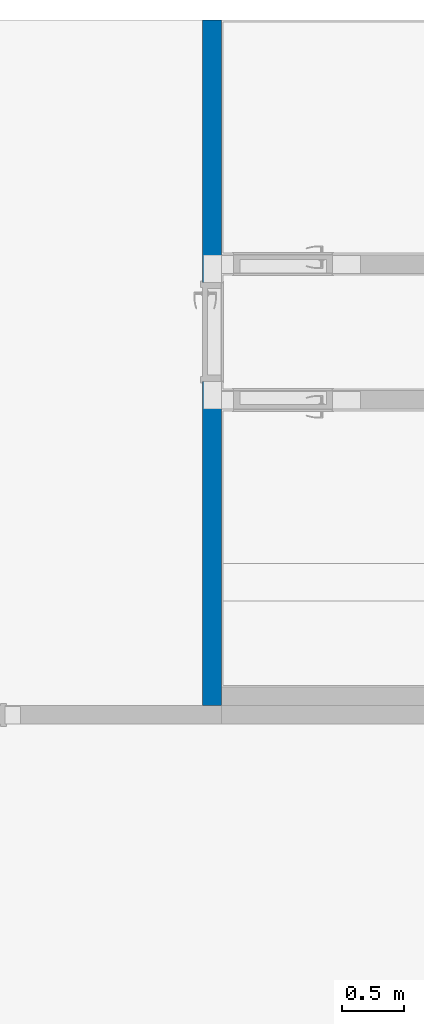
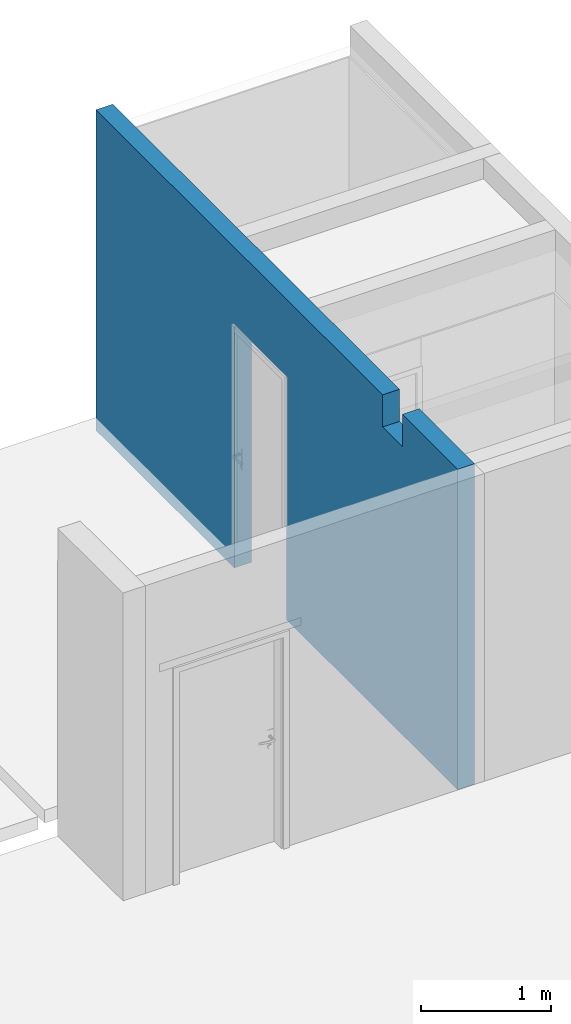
# One storey, part 14 of 17: 1 wall, 1 opening.
"""IFC4 building model written with IfcOpenShell, lengths in millimetres."""

from ifc_helpers import new_model, entity, si_unit, converted_unit, derived_unit, direction, frame, origin_with_axes, place, context, subcontext, project, spatial, polygons, material, constituent, constituent_set, type_object, element, save


model = new_model("IFC4")

# Units and contexts
model_context = context("Model", 3, precision=0.01, world=origin_with_axes(), true_north=direction((0.0, 1.0)))
body_context = subcontext(model_context, "Body", "Model", "MODEL_VIEW")
ifc_project = project(units=[si_unit("LENGTHUNIT", "METRE", prefix="MILLI"), si_unit("AREAUNIT", "SQUARE_METRE"), si_unit("VOLUMEUNIT", "CUBIC_METRE"), converted_unit("PLANEANGLEUNIT", "DEGREE", entity("IfcPlaneAngleMeasure", 0.0174532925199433), si_unit("PLANEANGLEUNIT", "RADIAN"), dimensions=[0, 0, 0, 0, 0, 0, 0]), converted_unit("TIMEUNIT", "Year", entity("IfcTimeMeasure", 31557600.0), si_unit("TIMEUNIT", "SECOND"), dimensions=[0, 0, 1, 0, 0, 0, 0]), si_unit("MASSUNIT", "GRAM", prefix="KILO"), si_unit("THERMODYNAMICTEMPERATUREUNIT", "DEGREE_CELSIUS"), si_unit("LUMINOUSINTENSITYUNIT", "LUMEN"), si_unit("ENERGYUNIT", "JOULE", prefix="MEGA"), derived_unit("THERMALCONDUCTANCEUNIT", [(si_unit("POWERUNIT", "WATT"), 1), (si_unit("LENGTHUNIT", "METRE"), -1), (si_unit("THERMODYNAMICTEMPERATUREUNIT", "KELVIN"), -1)]), derived_unit("SPECIFICHEATCAPACITYUNIT", [(si_unit("ENERGYUNIT", "JOULE"), 1), (si_unit("MASSUNIT", "GRAM", prefix="KILO"), -1), (si_unit("THERMODYNAMICTEMPERATUREUNIT", "KELVIN"), -1)]), derived_unit("MASSDENSITYUNIT", [(si_unit("MASSUNIT", "GRAM", prefix="KILO"), 1), (si_unit("VOLUMEUNIT", "CUBIC_METRE"), -1)])], contexts=[model_context])

# Site, building, storey
site_placement = place(None, origin_with_axes())
site = spatial("IfcSite", under=ifc_project, at=site_placement, Name="Exteriér", CompositionType="ELEMENT")
building_placement = place(site_placement, origin_with_axes())
building = spatial("IfcBuilding", under=site, at=building_placement, Name="Univerzitní lezecké centrum", CompositionType="ELEMENT")
storey_placement = place(building_placement, frame((0.0, 0.0, 3200.0), z_axis=(0.0, 0.0, 1.0), x_axis=(1.0, 0.0, 0.0)))
storey = spatial("IfcBuildingStorey", under=building, at=storey_placement, Name="2.NP", CompositionType="ELEMENT", Elevation=3200.0)

# Wall, opening
ifc_material = material(Name="Keramické tvárnice nenosné tl. 150 mm")
ifc_constituent = constituent(ifc_material, Name="Keramické tvárnice nenosné tl. 150 mm")
ifc_constituent_set = constituent_set(constituents=[ifc_constituent], Name="!Vnitřní keramická stěna 150 mm - nenosná*")
wall_type = type_object("IfcWallType", Name="!Vnitřní keramická stěna 150 mm - nenosná* 150", PredefinedType="NOTDEFINED")
wall_placement = place(storey_placement, frame((7750.055064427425, -1149.612793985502, -120.000000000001), z_axis=(0.0, 0.0, 1.0), x_axis=(0.0, 1.0, 0.0)))
wall = element("IfcWall", 1, at=wall_placement, inside=storey, type_object=wall_type, material=ifc_constituent_set, Name="St07*", PredefinedType="NOTDEFINED", context=body_context, shape_type="Tessellation", body=[
    polygons([(3424.612793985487, -150.0000000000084, 0.500000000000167), (3424.612793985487, -150.0000000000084, 0.0), (5549.612793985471, -150.0000000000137, 0.0), (5549.612793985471, -150.0000000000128, 3000.0), (1149.449368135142, -150.0000000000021, 3000.0), (1149.449368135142, -150.000000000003, 2700.0), (849.4493681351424, -150.0000000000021, 2700.0), (849.4493681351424, -150.0000000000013, 3000.0), (0.0, -149.9999999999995, 3000.0), (0.0, -150.0000000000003, 0.0), (2624.612793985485, -150.0000000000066, 0.0), (2624.612793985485, -150.0000000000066, 0.500000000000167), (2624.612793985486, -150.0000000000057, 120.000000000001), (2624.612793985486, -149.9999999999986, 2250.0), (2399.612793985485, -149.9999999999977, 2250.0), (2399.612793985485, -149.9999999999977, 2321.0), (3649.612793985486, -150.0000000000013, 2321.0), (3649.612793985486, -150.0000000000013, 2250.0), (3424.612793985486, -150.0000000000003, 2250.0), (3424.612793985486, -150.0000000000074, 120.000000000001), (3424.612793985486, 0.0, 0.500000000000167), (3424.612793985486, 0.0, 0.0), (5549.612793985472, 0.0, 0.0), (5549.612793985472, 0.0, 3000.0), (1149.4493687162, 0.0, 3000.0), (1149.4493687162, 0.0, 2700.0), (849.4493687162, 0.0, 2700.0), (849.4493687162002, 0.0, 3000.0), (0.0, 0.0, 3000.0), (0.0, 0.0, 0.0), (2624.612793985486, 0.0, 0.0), (2624.612793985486, 0.0, 0.500000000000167), (2624.612793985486, 0.0, 120.000000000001), (2624.612793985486, 0.0, 2270.000000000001), (2624.612793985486, -5.725001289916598, 2270.000000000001), (2624.612793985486, -5.725001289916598, 2250.0), (2399.612793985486, -5.72500128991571, 2250.0), (2399.612793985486, -5.72500128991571, 2321.0), (2399.612793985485, -116.6674999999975, 2280.499637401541), (2399.612793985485, -116.6674999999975, 2260.49963740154), (2399.612793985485, -138.5574999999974, 2260.49963740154), (2399.612793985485, -138.5574999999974, 2280.499637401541), (2399.612793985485, -116.6674999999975, 2310.5), (2399.612793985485, -116.6674999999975, 2290.5), (2399.612793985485, -138.5574999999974, 2290.5), (2399.612793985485, -138.5574999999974, 2310.5), (2399.612793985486, -39.05863622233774, 2280.499637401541), (2399.612793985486, -17.16863622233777, 2280.499637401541), (2399.612793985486, -17.16863622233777, 2260.49963740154), (2399.612793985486, -39.05863622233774, 2260.49963740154), (2399.612793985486, -17.16863622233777, 2290.5), (2399.612793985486, -39.05863622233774, 2290.5), (2399.612793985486, -39.05863622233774, 2310.5), (2399.612793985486, -17.16863622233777, 2310.5), (3649.612793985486, -5.725001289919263, 2321.0), (3649.612793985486, -5.725001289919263, 2250.0), (3649.612793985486, -116.667500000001, 2280.499637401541), (3649.612793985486, -138.557500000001, 2280.499637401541), (3649.612793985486, -138.557500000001, 2260.49963740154), (3649.612793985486, -116.667500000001, 2260.49963740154), (3649.612793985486, -116.667500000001, 2310.5), (3649.612793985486, -138.557500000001, 2310.5), (3649.612793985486, -138.557500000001, 2290.5), (3649.612793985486, -116.667500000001, 2290.5), (3649.612793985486, -39.05863622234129, 2280.499637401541), (3649.612793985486, -39.05863622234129, 2260.49963740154), (3649.612793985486, -17.16863622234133, 2260.49963740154), (3649.612793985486, -17.16863622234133, 2280.499637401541), (3649.612793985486, -17.16863622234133, 2290.5), (3649.612793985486, -17.16863622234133, 2310.5), (3649.612793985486, -39.05863622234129, 2310.5), (3649.612793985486, -39.05863622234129, 2290.5), (3424.612793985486, -5.725001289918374, 2250.0), (3424.612793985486, -5.725001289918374, 2270.000000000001), (3424.612793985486, 0.0, 2270.000000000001), (3424.612793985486, 0.0, 120.000000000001), (3424.612793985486, -116.6675000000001, 2260.49963740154), (3424.612793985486, -116.6675000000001, 2270.000000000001), (2624.612793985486, -116.6674999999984, 2270.000000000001), (2624.612793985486, -116.6674999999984, 2260.49963740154), (2624.612793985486, -138.5574999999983, 2260.49963740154), (2624.612793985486, -138.5574999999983, 2270.000000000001), (3424.612793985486, -138.5575000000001, 2270.000000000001), (3424.612793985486, -138.5575000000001, 2260.49963740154), (3424.612793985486, -17.16863622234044, 2260.49963740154), (3424.612793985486, -17.16863622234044, 2270.000000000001), (2624.612793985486, -17.16863622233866, 2270.000000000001), (2624.612793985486, -17.16863622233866, 2260.49963740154), (2624.612793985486, -39.05863622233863, 2260.49963740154), (2624.612793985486, -39.05863622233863, 2270.000000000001), (3424.612793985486, -39.0586362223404, 2270.000000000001), (3424.612793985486, -39.0586362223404, 2260.49963740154)], [[[1, 2, 3, 4, 5, 6, 7, 8, 9, 10, 11, 12, 13, 14, 15, 16, 17, 18, 19, 20]], [[2, 1, 21, 22]], [[2, 22, 23, 3]], [[23, 24, 4, 3]], [[4, 24, 25, 5]], [[25, 26, 6, 5]], [[26, 27, 7, 6]], [[7, 27, 28, 8]], [[29, 9, 8, 28]], [[30, 10, 9, 29]], [[31, 11, 10, 30]], [[32, 12, 11, 31]], [[12, 32, 33, 13]], [[34, 35, 36, 14, 13, 33]], [[36, 37, 15, 14]], [[37, 38, 16, 15], [39, 40, 41, 42], [43, 44, 45, 46], [47, 48, 49, 50], [51, 52, 53, 54]], [[55, 17, 16, 38]], [[18, 17, 55, 56], [57, 58, 59, 60], [61, 62, 63, 64], [65, 66, 67, 68], [69, 70, 71, 72]], [[56, 73, 19, 18]], [[20, 19, 73, 74, 75, 76]], [[21, 1, 20, 76]], [[22, 21, 76, 75, 34, 33, 32, 31, 30, 29, 28, 27, 26, 25, 24, 23]], [[34, 75, 74, 35]], [[37, 36, 35, 74, 73, 56, 55, 38]], [[57, 60, 77, 78, 79, 80, 40, 39]], [[41, 40, 80, 81]], [[41, 81, 82, 83, 84, 59, 58, 42]], [[57, 39, 42, 58]], [[64, 44, 43, 61]], [[63, 45, 44, 64]], [[62, 46, 45, 63]], [[61, 43, 46, 62]], [[68, 48, 47, 65]], [[68, 67, 85, 86, 87, 88, 49, 48]], [[50, 49, 88, 89]], [[50, 89, 90, 91, 92, 66, 65, 47]], [[72, 52, 51, 69]], [[71, 53, 52, 72]], [[70, 54, 53, 71]], [[69, 51, 54, 70]], [[60, 59, 84, 77]], [[67, 66, 92, 85]], [[83, 78, 77, 84]], [[83, 82, 79, 78]], [[82, 81, 80, 79]], [[91, 86, 85, 92]], [[91, 90, 87, 86]], [[90, 89, 88, 87]]], closed=True),
])
opening_placement = place(wall_placement, frame((3024.612793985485, 0.0, 120.000000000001), z_axis=(0.0, 0.0, 1.0), x_axis=(1.0, 0.0, 0.0)))
element("IfcOpeningElement", 2, at=opening_placement, cuts=wall, Name="D14", context=body_context, identifier="Reference", shape_type="Tessellation", body=[
    polygons([(400.0000000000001, -151.0000000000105, 0.0), (400.0000000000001, -151.0000000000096, 2150.0), (-399.9999999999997, -151.0000000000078, 2150.0), (-399.9999999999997, -151.0000000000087, 0.0), (412.0000000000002, -151.0000000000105, 0.0), (412.0000000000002, -151.0000000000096, 2162.0), (-411.9999999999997, -151.0000000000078, 2162.0), (-411.9999999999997, -151.0000000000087, 0.0), (400.0000000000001, -150.0000000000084, 0.0), (-399.9999999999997, -150.0000000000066, 0.0), (-399.9999999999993, 0.0, 0.0), (-399.9999999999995, 1.000000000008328, 0.0), (400.0000000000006, 1.000000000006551, 0.0), (400.0000000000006, 0.0, 0.0), (412.0000000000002, -150.0000000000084, 0.0), (412.0000000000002, -150.0000000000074, 2162.0), (-411.9999999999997, -150.0000000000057, 2162.0), (-411.9999999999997, -150.0000000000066, 0.0), (-399.9999999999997, -150.0000000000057, 2150.0), (-399.9999999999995, 0.0, 2150.0), (-411.9999999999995, 0.0, 0.0), (-411.9999999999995, 1.000000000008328, 0.0), (-411.9999999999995, 1.000000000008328, 2162.0), (412.0000000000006, 1.000000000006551, 2162.0), (412.0000000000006, 1.000000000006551, 0.0), (412.0000000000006, 0.0, 0.0), (400.0000000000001, -150.0000000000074, 2150.0), (400.0000000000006, 0.0, 2150.0), (412.0000000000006, 0.0, 2162.0), (-411.9999999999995, 0.0, 2162.0)], [[[1, 2, 3, 4]], [[3, 2, 1, 5, 6, 7, 8, 4]], [[9, 1, 4, 10, 11, 12, 13, 14]], [[1, 9, 15, 5]], [[15, 16, 6, 5]], [[16, 17, 7, 6]], [[17, 18, 8, 7]], [[10, 4, 8, 18]], [[10, 19, 20, 11]], [[12, 11, 21, 22]], [[13, 12, 22, 23, 24, 25]], [[14, 13, 25, 26]], [[27, 9, 14, 28]], [[9, 27, 19, 10, 18, 17, 16, 15]], [[19, 27, 28, 20]], [[20, 28, 14, 26, 29, 30, 21, 11]], [[21, 30, 23, 22]], [[30, 29, 24, 23]], [[29, 26, 25, 24]]], closed=True),
])

save(model, "model.ifc")
